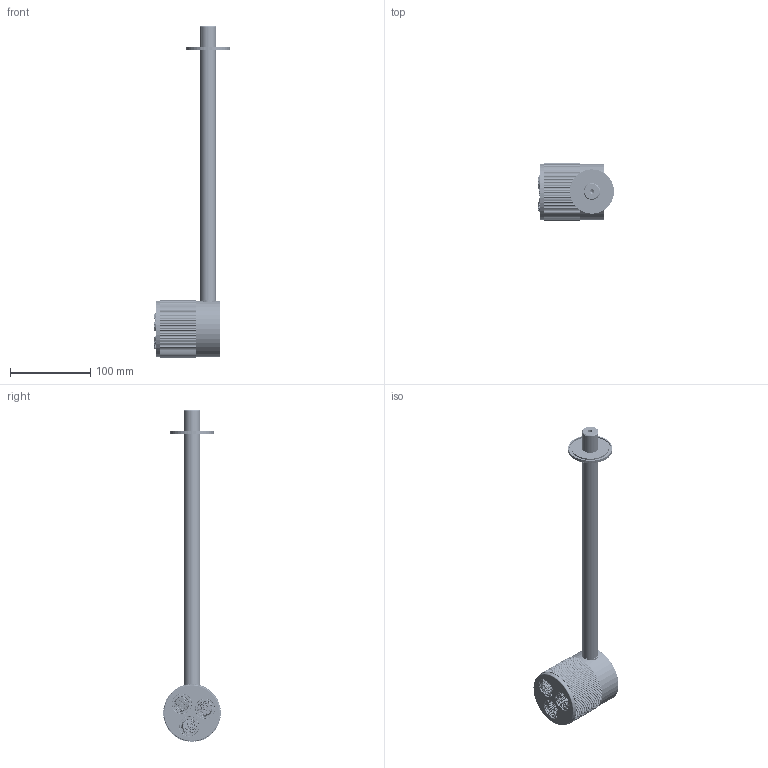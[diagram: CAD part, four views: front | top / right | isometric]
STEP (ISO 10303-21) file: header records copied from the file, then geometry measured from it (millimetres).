
FILE_DESCRIPTION (( 'STEP AP203' ), '1' );
FILE_NAME ('SWD2G.STEP', '2025-03-25T14:17:29', ( '' ), ( '' ), 'SwSTEP 2.0', 'SolidWorks 2024', '' );
FILE_SCHEMA (( 'CONFIG_CONTROL_DESIGN' ));
Length unit declared in the file: millimetre
Products named in the file (15): C11.14.0003; C25.2452.00.0; SWD2G; C13.00.0071; C11.14.0007; C21.2597.00.1; C25.1209.00.0; C21.2835.00; C21.2289.00.0; AS1047_00; C12.00.0043; C12.00.0007; C21.2575.00.0; C25.1249.00.0; C25.2351.00.0
Assembly tree (20 placements, depth 3):
  SWD2G
    AS1047_00
      C21.2289.00.0
      C21.2597.00.1
      C25.2452.00.0
      C12.00.0007  x2
      C21.2575.00.0
      C12.00.0043
      C13.00.0071  x3
    C11.14.0003
    C25.1249.00.0
    C11.14.0007
    C25.1209.00.0
    C12.00.0007  x3
    C25.2351.00.0
    C21.2835.00
Bounding box: 94.39 x 71.97 x 412.5 mm (x, y, z)
Volume: 282951.8 mm3; surface area: 132693.9 mm2
Topology: 22 solids, 22 shells, 11805 faces, 30641 edges, 20182 vertices
Faces by surface type: plane 7782, bspline 1685, cone 1458, cylinder 655, torus 222, sphere 3
Entity records: 165602 total; most frequent: CARTESIAN_POINT 69153, ORIENTED_EDGE 22798, DIRECTION 14498, EDGE_CURVE 11399, VERTEX_POINT 7494, B_SPLINE_CURVE_WITH_KNOTS 6180, AXIS2_PLACEMENT_3D 5519, EDGE_LOOP 4871
